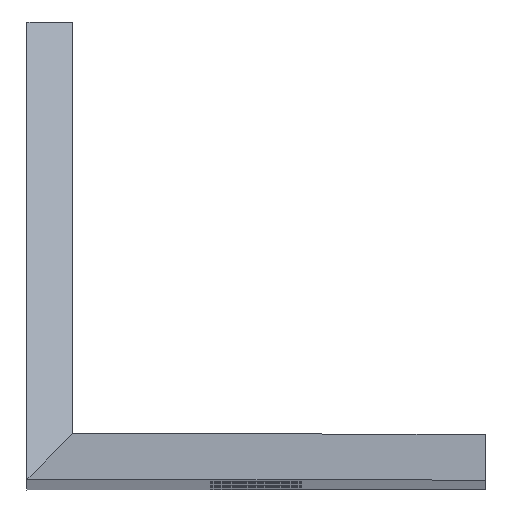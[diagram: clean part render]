
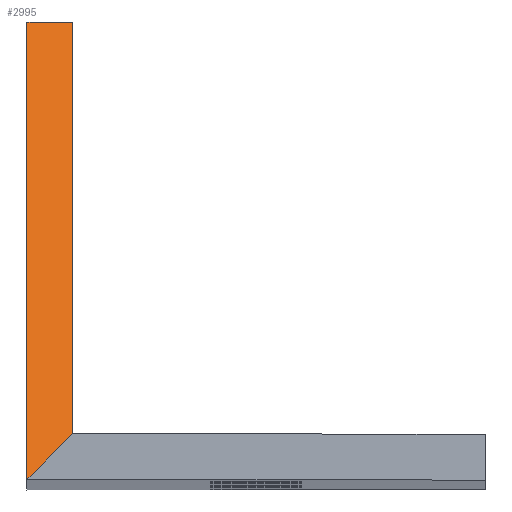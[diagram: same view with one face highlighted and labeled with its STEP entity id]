
A CAD part, top view. The second image highlights one B-rep face of the part: STEP entity #2995.
In plain terms, the highlighted planar face has unit normal (0, 0.707, 0.707).
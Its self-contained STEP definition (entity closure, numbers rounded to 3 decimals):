
#72 = ORIENTED_EDGE ( 'NONE', *, *, #1685, .T. ) ;
#77 = ORIENTED_EDGE ( 'NONE', *, *, #1714, .F. ) ;
#102 = ORIENTED_EDGE ( 'NONE', *, *, #1712, .F. ) ;
#110 = ORIENTED_EDGE ( 'NONE', *, *, #1679, .F. ) ;
#538 = EDGE_LOOP ( 'NONE', ( #72, #110, #102, #77 ) ) ;
#802 = VERTEX_POINT ( 'NONE', #2346 ) ;
#810 = VERTEX_POINT ( 'NONE', #2334 ) ;
#883 = VERTEX_POINT ( 'NONE', #2358 ) ;
#898 = VERTEX_POINT ( 'NONE', #2359 ) ;
#958 = VECTOR ( 'NONE', #2432, 1000. ) ;
#967 = LINE ( 'NONE', #2436, #958 ) ;
#1001 = VECTOR ( 'NONE', #2499, 1000. ) ;
#1014 = VECTOR ( 'NONE', #2421, 1000. ) ;
#1015 = LINE ( 'NONE', #2445, #1014 ) ;
#1031 = LINE ( 'NONE', #2490, #1001 ) ;
#1039 = LINE ( 'NONE', #2454, #1046 ) ;
#1046 = VECTOR ( 'NONE', #2467, 1000. ) ;
#1609 = FACE_OUTER_BOUND ( 'NONE', #538, .T. ) ;
#1679 = EDGE_CURVE ( 'NONE', #802, #898, #967, .T. ) ;
#1685 = EDGE_CURVE ( 'NONE', #883, #898, #1015, .T. ) ;
#1712 = EDGE_CURVE ( 'NONE', #810, #802, #1039, .T. ) ;
#1714 = EDGE_CURVE ( 'NONE', #883, #810, #1031, .T. ) ;
#2334 = CARTESIAN_POINT ( 'NONE',  ( 2., 20., 247.8 ) ) ;
#2346 = CARTESIAN_POINT ( 'NONE',  ( 2., 2., 265.8 ) ) ;
#2358 = CARTESIAN_POINT ( 'NONE',  ( 0., 20., 247.8 ) ) ;
#2359 = CARTESIAN_POINT ( 'NONE',  ( 0., 0., 267.8 ) ) ;
#2421 = DIRECTION ( 'NONE',  ( 0., -0.707, 0.707 ) ) ;
#2432 = DIRECTION ( 'NONE',  ( -0.577, -0.577, 0.577 ) ) ;
#2436 = CARTESIAN_POINT ( 'NONE',  ( 0.667, 0.667, 267.133 ) ) ;
#2445 = CARTESIAN_POINT ( 'NONE',  ( 0., 0., 267.8 ) ) ;
#2454 = CARTESIAN_POINT ( 'NONE',  ( 2., 0., 267.8 ) ) ;
#2467 = DIRECTION ( 'NONE',  ( 0., -0.707, 0.707 ) ) ;
#2490 = CARTESIAN_POINT ( 'NONE',  ( 0., 20., 247.8 ) ) ;
#2499 = DIRECTION ( 'NONE',  ( 1., 0., 0. ) ) ;
#2995 = ADVANCED_FACE ( 'NONE', ( #1609 ), #3479, .F. ) ;
#3467 = DIRECTION ( 'NONE',  ( 0., 0.707, -0.707 ) ) ;
#3471 = CARTESIAN_POINT ( 'NONE',  ( 2., 0., 267.8 ) ) ;
#3479 = PLANE ( 'NONE',  #3691 ) ;
#3515 = DIRECTION ( 'NONE',  ( 0., -0.707, -0.707 ) ) ;
#3691 = AXIS2_PLACEMENT_3D ( 'NONE', #3471, #3515, #3467 ) ;
